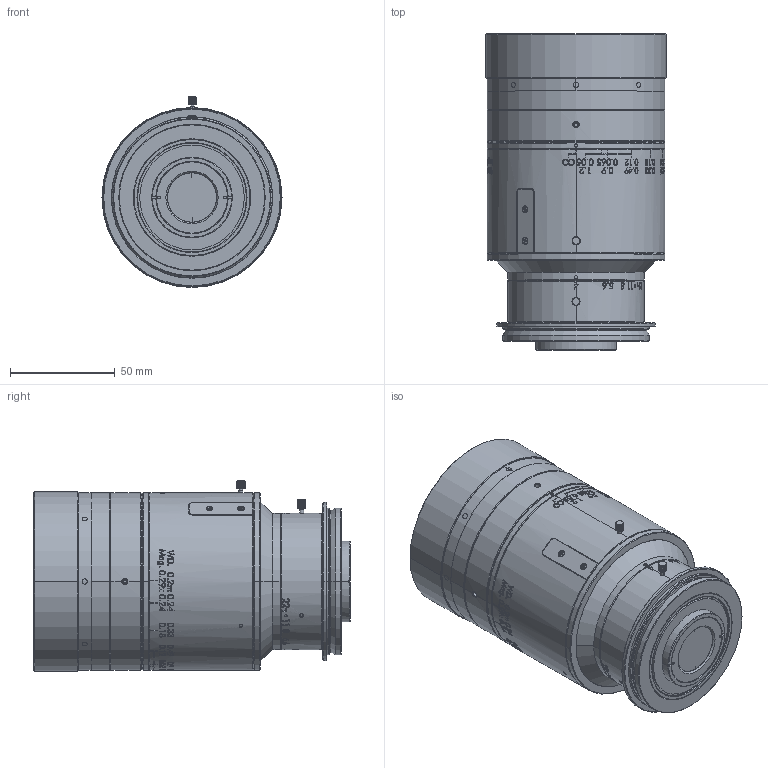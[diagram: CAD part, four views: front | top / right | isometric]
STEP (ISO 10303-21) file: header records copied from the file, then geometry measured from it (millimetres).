
FILE_DESCRIPTION (( 'STEP AP214' ), '1' );
FILE_NAME ('ML-LU6040-58V70.STEP', '2026-02-27T04:38:39', ( '' ), ( '' ), 'SwSTEP 2.0', 'SolidWorks 2025', '' );
FILE_SCHEMA (( 'AUTOMOTIVE_DESIGN' ));
Products named in the file (1): ML-LU6040-58V70
Bounding box: 86 x 151.02 x 91.25 mm (x, y, z)
Volume: 705177.8 mm3; surface area: 61528.3 mm2
Topology: 1 solids, 15 shells, 2459 faces, 6365 edges, 4193 vertices
Faces by surface type: bspline 976, plane 699, cylinder 572, cone 208, sphere 4
Entity records: 205253 total; most frequent: CARTESIAN_POINT 154648, ORIENTED_EDGE 12730, DIRECTION 6536, EDGE_CURVE 6365, VERTEX_POINT 4193, B_SPLINE_CURVE_WITH_KNOTS 3740, EDGE_LOOP 2720, AXIS2_PLACEMENT_3D 2480
